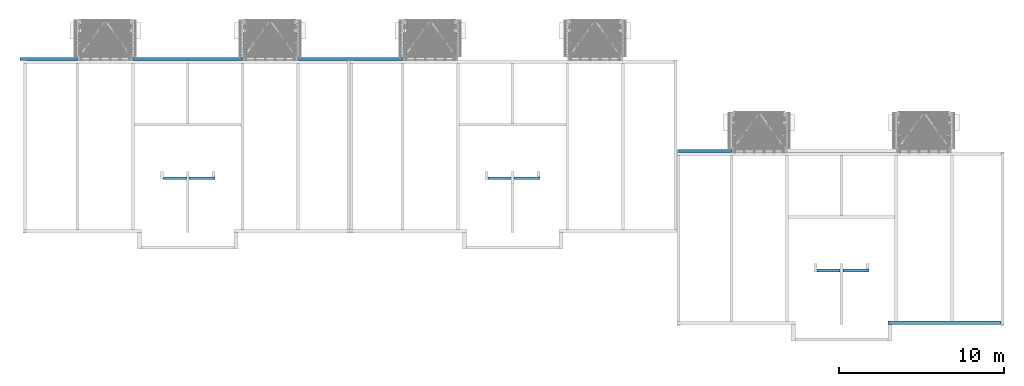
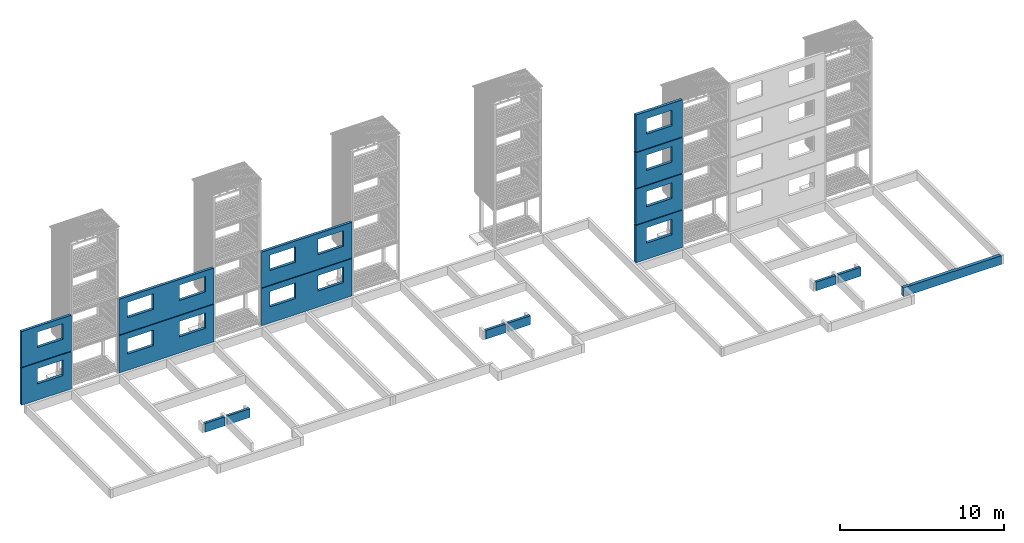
# One storey, part 181 of 182: 17 walls, 14 openings.
"""IFC2X3 building model written with IfcOpenShell, lengths in metres."""

from ifc_helpers import new_model, si_unit, frame, origin, place, context, project, spatial, faceted_brep, element, save


model = new_model("IFC2X3")

# Units and contexts
model_context = context("Model", 3, precision=1e-06, world=origin())
ifc_project = project(units=[si_unit("LENGTHUNIT", "METRE"), si_unit("PLANEANGLEUNIT", "RADIAN")], contexts=[model_context])

# Site, building, storey
site = spatial("IfcSite", under=ifc_project, CompositionType="ELEMENT")
building = spatial("IfcBuilding", under=site, CompositionType="ELEMENT")
storey = spatial("IfcBuildingStorey", under=building, Name="vs", CompositionType="ELEMENT", Elevation=-0.85)

# Wall, openings
placement = place(None, origin())
wall_1_placement = place(placement, frame((23.03540137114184, 10.657077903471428, -0.2), z_axis=(0.0, 0.0, 1.0), x_axis=(-1.0, 0.0, 0.0)))
wall_1 = element("IfcWall", 1, at=wall_1_placement, inside=storey, context=model_context, shape_type="Brep", body=[
    faceted_brep([(0.0, 0.0, 2.775), (0.0, 0.187, 2.775), (0.0, 0.187, 0.0), (0.0, 0.0, 0.0), (0.0, 0.187, 2.775), (6.370802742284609, 0.187, 2.775), (6.370802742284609, 0.187, 0.0), (0.0, 0.187, 0.0), (6.370802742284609, 0.187, 2.775), (6.370802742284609, 0.0, 2.775), (6.370802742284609, 0.0, 0.0), (6.370802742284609, 0.187, 0.0), (6.370802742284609, 0.0, 2.775), (0.0, 0.0, 2.775), (0.0, 0.0, 0.0), (6.370802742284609, 0.0, 0.0), (0.0, 0.0, 2.775), (6.370802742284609, 0.0, 2.775), (6.370802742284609, 0.187, 2.775), (0.0, 0.187, 2.775), (0.0, 0.0, 0.0), (0.0, 0.187, 0.0), (6.370802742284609, 0.187, 0.0), (6.370802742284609, 0.0, 0.0)], [[[0, 1, 2, 3]], [[4, 5, 6, 7]], [[8, 9, 10, 11]], [[12, 13, 14, 15]], [[16, 17, 18, 19]], [[20, 21, 22, 23]]]),
])
opening_1_placement = place(placement, frame((22.43540137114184, 10.657077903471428, 1.0), z_axis=(0.0, 0.0, 1.0), x_axis=(-1.0, 0.0, 0.0)))
element("IfcOpeningElement", 2, at=opening_1_placement, cuts=wall_1, Name="Opening", context=model_context, shape_type="Brep", body=[
    faceted_brep([(0.0, 0.187, 0.0), (1.8, 0.187, 0.0), (1.8, 0.0, 0.0), (0.0, 0.0, 0.0), (1.8, 0.0, 1.15), (1.8, 0.187, 1.15), (0.0, 0.187, 1.15), (0.0, 0.0, 1.15), (0.0, 0.187, 0.0), (0.0, 0.0, 0.0), (0.0, 0.0, 1.15), (0.0, 0.187, 1.15), (1.8, 0.187, 0.0), (0.0, 0.187, 0.0), (0.0, 0.187, 1.15), (1.8, 0.187, 1.15), (1.8, 0.0, 0.0), (1.8, 0.187, 0.0), (1.8, 0.187, 1.15), (1.8, 0.0, 1.15), (0.0, 0.0, 0.0), (1.8, 0.0, 0.0), (1.8, 0.0, 1.15), (0.0, 0.0, 1.15)], [[[0, 1, 2, 3]], [[4, 5, 6, 7]], [[8, 9, 10, 11]], [[12, 13, 14, 15]], [[16, 17, 18, 19]], [[20, 21, 22, 23]]]),
])
opening_2_placement = place(placement, frame((19.065401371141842, 10.65707790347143, 1.0), z_axis=(0.0, 0.0, 1.0), x_axis=(-1.0, 0.0, 0.0)))
element("IfcOpeningElement", 3, at=opening_2_placement, cuts=wall_1, Name="Opening", context=model_context, shape_type="Brep", body=[
    faceted_brep([(0.0, 0.186999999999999, 0.0), (1.8, 0.186999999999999, 0.0), (1.8, 0.0, 0.0), (0.0, 0.0, 0.0), (1.8, 0.0, 1.15), (1.8, 0.186999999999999, 1.15), (0.0, 0.186999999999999, 1.15), (0.0, 0.0, 1.15), (0.0, 0.186999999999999, 0.0), (0.0, 0.0, 0.0), (0.0, 0.0, 1.15), (0.0, 0.186999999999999, 1.15), (1.8, 0.186999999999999, 0.0), (0.0, 0.186999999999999, 0.0), (0.0, 0.186999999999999, 1.15), (1.8, 0.186999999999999, 1.15), (1.8, 0.0, 0.0), (1.8, 0.186999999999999, 0.0), (1.8, 0.186999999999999, 1.15), (1.8, 0.0, 1.15), (0.0, 0.0, 0.0), (1.8, 0.0, 0.0), (1.8, 0.0, 1.15), (0.0, 0.0, 1.15)], [[[0, 1, 2, 3]], [[4, 5, 6, 7]], [[8, 9, 10, 11]], [[12, 13, 14, 15]], [[16, 17, 18, 19]], [[20, 21, 22, 23]]]),
])

# Wall
wall_2_placement = place(placement, frame((11.64999945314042, 3.400077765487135, -0.85), z_axis=(0.0, 0.0, 1.0), x_axis=(-1.0, 0.0, 0.0)))
element("IfcWall", 4, at=wall_2_placement, inside=storey, context=model_context, shape_type="Brep", body=[
    faceted_brep([(1.574999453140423, 0.18, 0.65), (1.574999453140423, 0.0, 0.65), (1.574999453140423, 0.0, 0.0), (1.574999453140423, 0.18, 0.0), (1.574999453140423, 0.0, 0.65), (0.0, 0.0, 0.65), (0.0, 0.0, 0.0), (1.574999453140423, 0.0, 0.0), (0.0, 0.0, 0.65), (0.0, 0.18, 0.65), (0.0, 0.18, 0.0), (0.0, 0.0, 0.0), (0.0, 0.18, 0.65), (1.574999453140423, 0.18, 0.65), (1.574999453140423, 0.18, 0.0), (0.0, 0.18, 0.0), (1.574999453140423, 0.18, 0.65), (0.0, 0.18, 0.65), (0.0, 0.0, 0.65), (1.574999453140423, 0.0, 0.65), (1.574999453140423, 0.18, 0.0), (1.574999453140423, 0.0, 0.0), (0.0, 0.0, 0.0), (0.0, 0.18, 0.0)], [[[0, 1, 2, 3]], [[4, 5, 6, 7]], [[8, 9, 10, 11]], [[12, 13, 14, 15]], [[16, 17, 18, 19]], [[20, 21, 22, 23]]]),
])

# Wall, openings
wall_3_placement = place(placement, frame((23.03540137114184, 10.657077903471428, 2.625), z_axis=(0.0, 0.0, 1.0), x_axis=(-1.0, 0.0, 0.0)))
wall_3 = element("IfcWall", 5, at=wall_3_placement, inside=storey, context=model_context, shape_type="Brep", body=[
    faceted_brep([(0.0, 0.0, 2.65), (0.0, 0.187, 2.65), (0.0, 0.187, 0.0), (0.0, 0.0, 0.0), (0.0, 0.187, 2.65), (6.370802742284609, 0.187, 2.65), (6.370802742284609, 0.187, 0.0), (0.0, 0.187, 0.0), (6.370802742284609, 0.187, 2.65), (6.370802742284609, 0.0, 2.65), (6.370802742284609, 0.0, 0.0), (6.370802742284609, 0.187, 0.0), (6.370802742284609, 0.0, 2.65), (0.0, 0.0, 2.65), (0.0, 0.0, 0.0), (6.370802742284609, 0.0, 0.0), (0.0, 0.0, 2.65), (6.370802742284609, 0.0, 2.65), (6.370802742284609, 0.187, 2.65), (0.0, 0.187, 2.65), (0.0, 0.0, 0.0), (0.0, 0.187, 0.0), (6.370802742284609, 0.187, 0.0), (6.370802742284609, 0.0, 0.0)], [[[0, 1, 2, 3]], [[4, 5, 6, 7]], [[8, 9, 10, 11]], [[12, 13, 14, 15]], [[16, 17, 18, 19]], [[20, 21, 22, 23]]]),
])
opening_3_placement = place(placement, frame((19.065401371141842, 10.657077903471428, 3.7), z_axis=(0.0, 0.0, 1.0), x_axis=(-1.0, 0.0, 0.0)))
element("IfcOpeningElement", 6, at=opening_3_placement, cuts=wall_3, Name="Opening", context=model_context, shape_type="Brep", body=[
    faceted_brep([(0.0, 0.186999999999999, 0.0), (1.8, 0.186999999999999, 0.0), (1.8, 0.0, 0.0), (0.0, 0.0, 0.0), (1.8, 0.0, 1.15), (1.8, 0.186999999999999, 1.15), (0.0, 0.186999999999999, 1.15), (0.0, 0.0, 1.15), (0.0, 0.186999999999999, 0.0), (0.0, 0.0, 0.0), (0.0, 0.0, 1.15), (0.0, 0.186999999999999, 1.15), (1.8, 0.186999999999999, 0.0), (0.0, 0.186999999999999, 0.0), (0.0, 0.186999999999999, 1.15), (1.8, 0.186999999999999, 1.15), (1.8, 0.0, 0.0), (1.8, 0.186999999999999, 0.0), (1.8, 0.186999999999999, 1.15), (1.8, 0.0, 1.15), (0.0, 0.0, 0.0), (1.8, 0.0, 0.0), (1.8, 0.0, 1.15), (0.0, 0.0, 1.15)], [[[0, 1, 2, 3]], [[4, 5, 6, 7]], [[8, 9, 10, 11]], [[12, 13, 14, 15]], [[16, 17, 18, 19]], [[20, 21, 22, 23]]]),
])
opening_4_placement = place(placement, frame((22.43540137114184, 10.657077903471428, 3.7), z_axis=(0.0, 0.0, 1.0), x_axis=(-1.0, 0.0, 0.0)))
element("IfcOpeningElement", 7, at=opening_4_placement, cuts=wall_3, Name="Opening", context=model_context, shape_type="Brep", body=[
    faceted_brep([(0.0, 0.187, 0.0), (1.8, 0.187, 0.0), (1.8, 0.0, 0.0), (0.0, 0.0, 0.0), (1.8, 0.0, 1.15), (1.8, 0.187, 1.15), (0.0, 0.187, 1.15), (0.0, 0.0, 1.15), (0.0, 0.187, 0.0), (0.0, 0.0, 0.0), (0.0, 0.0, 1.15), (0.0, 0.187, 1.15), (1.8, 0.187, 0.0), (0.0, 0.187, 0.0), (0.0, 0.187, 1.15), (1.8, 0.187, 1.15), (1.8, 0.0, 0.0), (1.8, 0.187, 0.0), (1.8, 0.187, 1.15), (1.8, 0.0, 1.15), (0.0, 0.0, 0.0), (1.8, 0.0, 0.0), (1.8, 0.0, 1.15), (0.0, 0.0, 1.15)], [[[0, 1, 2, 3]], [[4, 5, 6, 7]], [[8, 9, 10, 11]], [[12, 13, 14, 15]], [[16, 17, 18, 19]], [[20, 21, 22, 23]]]),
])

# Wall
wall_4_placement = place(placement, frame((31.37999951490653, 3.400077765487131, -0.85), z_axis=(0.0, 0.0, 1.0), x_axis=(-1.0, 0.0, 0.0)))
element("IfcWall", 8, at=wall_4_placement, inside=storey, context=model_context, shape_type="Brep", body=[
    faceted_brep([(1.574999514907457, 0.18, 0.65), (1.574999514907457, 0.0, 0.65), (1.574999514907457, 0.0, 0.0), (1.574999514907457, 0.18, 0.0), (1.574999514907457, 0.0, 0.65), (0.0, 0.0, 0.65), (0.0, 0.0, 0.0), (1.574999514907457, 0.0, 0.0), (0.0, 0.0, 0.65), (0.0, 0.18, 0.65), (0.0, 0.18, 0.0), (0.0, 0.0, 0.0), (0.0, 0.18, 0.65), (1.574999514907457, 0.18, 0.65), (1.574999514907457, 0.18, 0.0), (0.0, 0.18, 0.0), (1.574999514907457, 0.18, 0.65), (0.0, 0.18, 0.65), (0.0, 0.0, 0.65), (1.574999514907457, 0.0, 0.65), (1.574999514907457, 0.18, 0.0), (1.574999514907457, 0.0, 0.0), (0.0, 0.0, 0.0), (0.0, 0.18, 0.0)], [[[0, 1, 2, 3]], [[4, 5, 6, 7]], [[8, 9, 10, 11]], [[12, 13, 14, 15]], [[16, 17, 18, 19]], [[20, 21, 22, 23]]]),
])

# Wall, openings
wall_5_placement = place(placement, frame((13.314598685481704, 10.657077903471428, 2.625), z_axis=(0.0, 0.0, 1.0), x_axis=(-1.0, 0.0, 0.0)))
wall_5 = element("IfcWall", 9, at=wall_5_placement, inside=storey, context=model_context, shape_type="Brep", body=[
    faceted_brep([(0.0, 0.0, 2.65), (0.0, 0.187, 2.65), (0.0, 0.187, 0.0), (0.0, 0.0, 0.0), (0.0, 0.187, 2.65), (6.659598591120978, 0.187, 2.65), (6.659598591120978, 0.187, 0.0), (0.0, 0.187, 0.0), (6.659598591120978, 0.187, 2.65), (6.659598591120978, 0.0, 2.65), (6.659598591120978, 0.0, 0.0), (6.659598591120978, 0.187, 0.0), (6.659598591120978, 0.0, 2.65), (0.0, 0.0, 2.65), (0.0, 0.0, 0.0), (6.659598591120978, 0.0, 0.0), (0.0, 0.0, 2.65), (6.659598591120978, 0.0, 2.65), (6.659598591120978, 0.187, 2.65), (0.0, 0.187, 2.65), (0.0, 0.0, 0.0), (0.0, 0.187, 0.0), (6.659598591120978, 0.187, 0.0), (6.659598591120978, 0.0, 0.0)], [[[0, 1, 2, 3]], [[4, 5, 6, 7]], [[8, 9, 10, 11]], [[12, 13, 14, 15]], [[16, 17, 18, 19]], [[20, 21, 22, 23]]]),
])
opening_5_placement = place(placement, frame((12.714598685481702, 10.657077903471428, 3.7), z_axis=(0.0, 0.0, 1.0), x_axis=(-1.0, 0.0, 0.0)))
element("IfcOpeningElement", 10, at=opening_5_placement, cuts=wall_5, Name="Opening", context=model_context, shape_type="Brep", body=[
    faceted_brep([(0.0, 0.187, 0.0), (1.8, 0.187, 0.0), (1.8, 0.0, 0.0), (0.0, 0.0, 0.0), (1.8, 0.0, 1.15), (1.8, 0.187, 1.15), (0.0, 0.187, 1.15), (0.0, 0.0, 1.15), (0.0, 0.187, 0.0), (0.0, 0.0, 0.0), (0.0, 0.0, 1.15), (0.0, 0.187, 1.15), (1.8, 0.187, 0.0), (0.0, 0.187, 0.0), (0.0, 0.187, 1.15), (1.8, 0.187, 1.15), (1.8, 0.0, 0.0), (1.8, 0.187, 0.0), (1.8, 0.187, 1.15), (1.8, 0.0, 1.15), (0.0, 0.0, 0.0), (1.8, 0.0, 0.0), (1.8, 0.0, 1.15), (0.0, 0.0, 1.15)], [[[0, 1, 2, 3]], [[4, 5, 6, 7]], [[8, 9, 10, 11]], [[12, 13, 14, 15]], [[16, 17, 18, 19]], [[20, 21, 22, 23]]]),
])
opening_6_placement = place(placement, frame((9.054598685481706, 10.657077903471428, 3.7), z_axis=(0.0, 0.0, 1.0), x_axis=(-1.0, 0.0, 0.0)))
element("IfcOpeningElement", 11, at=opening_6_placement, cuts=wall_5, Name="Opening", context=model_context, shape_type="Brep", body=[
    faceted_brep([(0.0, 0.186999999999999, 0.0), (1.8, 0.186999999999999, 0.0), (1.8, 0.0, 0.0), (0.0, 0.0, 0.0), (1.8, 0.0, 1.15), (1.8, 0.186999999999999, 1.15), (0.0, 0.186999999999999, 1.15), (0.0, 0.0, 1.15), (0.0, 0.186999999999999, 0.0), (0.0, 0.0, 0.0), (0.0, 0.0, 1.15), (0.0, 0.186999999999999, 1.15), (1.8, 0.186999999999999, 0.0), (0.0, 0.186999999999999, 0.0), (0.0, 0.186999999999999, 1.15), (1.8, 0.186999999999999, 1.15), (1.8, 0.0, 0.0), (1.8, 0.186999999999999, 0.0), (1.8, 0.186999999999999, 1.15), (1.8, 0.0, 1.15), (0.0, 0.0, 0.0), (1.8, 0.0, 0.0), (1.8, 0.0, 1.15), (0.0, 0.0, 1.15)], [[[0, 1, 2, 3]], [[4, 5, 6, 7]], [[8, 9, 10, 11]], [[12, 13, 14, 15]], [[16, 17, 18, 19]], [[20, 21, 22, 23]]]),
])

# Wall, opening
wall_6_placement = place(placement, frame((3.305000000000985, 10.657078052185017, 2.625), z_axis=(0.0, 0.0, 1.0), x_axis=(-1.0, 0.0, 0.0)))
wall_6 = element("IfcWall", 12, at=wall_6_placement, inside=storey, context=model_context, shape_type="Brep", body=[
    faceted_brep([(0.0, 0.0, 2.65), (0.0, 0.187, 2.65), (0.0, 0.187, 0.0), (0.0, 0.0, 0.0), (0.0, 0.187, 2.65), (3.505000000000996, 0.187, 2.65), (3.505000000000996, 0.187, 0.0), (0.0, 0.187, 0.0), (3.505000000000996, 0.187, 2.65), (3.505000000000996, 0.0, 2.65), (3.505000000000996, 0.0, 0.0), (3.505000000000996, 0.187, 0.0), (3.505000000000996, 0.0, 2.65), (0.0, 0.0, 2.65), (0.0, 0.0, 0.0), (3.505000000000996, 0.0, 0.0), (0.0, 0.0, 2.65), (3.505000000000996, 0.0, 2.65), (3.505000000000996, 0.187, 2.65), (0.0, 0.187, 2.65), (0.0, 0.0, 0.0), (0.0, 0.187, 0.0), (3.505000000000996, 0.187, 0.0), (3.505000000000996, 0.0, 0.0)], [[[0, 1, 2, 3]], [[4, 5, 6, 7]], [[8, 9, 10, 11]], [[12, 13, 14, 15]], [[16, 17, 18, 19]], [[20, 21, 22, 23]]]),
])
opening_7_placement = place(placement, frame((2.705000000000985, 10.657078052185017, 3.7), z_axis=(0.0, 0.0, 1.0), x_axis=(-1.0, 0.0, 0.0)))
element("IfcOpeningElement", 13, at=opening_7_placement, cuts=wall_6, Name="Opening", context=model_context, shape_type="Brep", body=[
    faceted_brep([(0.0, 0.187, 0.0), (1.8, 0.187, 0.0), (1.8, 0.0, 0.0), (0.0, 0.0, 0.0), (1.8, 0.0, 1.15), (1.8, 0.187, 1.15), (0.0, 0.187, 1.15), (0.0, 0.0, 1.15), (0.0, 0.187, 0.0), (0.0, 0.0, 0.0), (0.0, 0.0, 1.15), (0.0, 0.187, 1.15), (1.8, 0.187, 0.0), (0.0, 0.187, 0.0), (0.0, 0.187, 1.15), (1.8, 0.187, 1.15), (1.8, 0.0, 0.0), (1.8, 0.187, 0.0), (1.8, 0.187, 1.15), (1.8, 0.0, 1.15), (0.0, 0.0, 0.0), (1.8, 0.0, 0.0), (1.8, 0.0, 1.15), (0.0, 0.0, 1.15)], [[[0, 1, 2, 3]], [[4, 5, 6, 7]], [[8, 9, 10, 11]], [[12, 13, 14, 15]], [[16, 17, 18, 19]], [[20, 21, 22, 23]]]),
])

# Wall, openings
wall_7_placement = place(placement, frame((13.314598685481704, 10.657077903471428, -0.2), z_axis=(0.0, 0.0, 1.0), x_axis=(-1.0, 0.0, 0.0)))
wall_7 = element("IfcWall", 14, at=wall_7_placement, inside=storey, context=model_context, shape_type="Brep", body=[
    faceted_brep([(0.0, 0.0, 2.775), (0.0, 0.187, 2.775), (0.0, 0.187, 0.0), (0.0, 0.0, 0.0), (0.0, 0.187, 2.775), (6.659598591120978, 0.187, 2.775), (6.659598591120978, 0.187, 0.0), (0.0, 0.187, 0.0), (6.659598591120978, 0.187, 2.775), (6.659598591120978, 0.0, 2.775), (6.659598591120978, 0.0, 0.0), (6.659598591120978, 0.187, 0.0), (6.659598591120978, 0.0, 2.775), (0.0, 0.0, 2.775), (0.0, 0.0, 0.0), (6.659598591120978, 0.0, 0.0), (0.0, 0.0, 2.775), (6.659598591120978, 0.0, 2.775), (6.659598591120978, 0.187, 2.775), (0.0, 0.187, 2.775), (0.0, 0.0, 0.0), (0.0, 0.187, 0.0), (6.659598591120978, 0.187, 0.0), (6.659598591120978, 0.0, 0.0)], [[[0, 1, 2, 3]], [[4, 5, 6, 7]], [[8, 9, 10, 11]], [[12, 13, 14, 15]], [[16, 17, 18, 19]], [[20, 21, 22, 23]]]),
])
opening_8_placement = place(placement, frame((9.054598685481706, 10.657077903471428, 1.0), z_axis=(0.0, 0.0, 1.0), x_axis=(-1.0, 0.0, 0.0)))
element("IfcOpeningElement", 15, at=opening_8_placement, cuts=wall_7, Name="Opening", context=model_context, shape_type="Brep", body=[
    faceted_brep([(0.0, 0.186999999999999, 0.0), (1.8, 0.186999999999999, 0.0), (1.8, 0.0, 0.0), (0.0, 0.0, 0.0), (1.8, 0.0, 1.15), (1.8, 0.186999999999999, 1.15), (0.0, 0.186999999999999, 1.15), (0.0, 0.0, 1.15), (0.0, 0.186999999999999, 0.0), (0.0, 0.0, 0.0), (0.0, 0.0, 1.15), (0.0, 0.186999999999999, 1.15), (1.8, 0.186999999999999, 0.0), (0.0, 0.186999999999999, 0.0), (0.0, 0.186999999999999, 1.15), (1.8, 0.186999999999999, 1.15), (1.8, 0.0, 0.0), (1.8, 0.186999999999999, 0.0), (1.8, 0.186999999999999, 1.15), (1.8, 0.0, 1.15), (0.0, 0.0, 0.0), (1.8, 0.0, 0.0), (1.8, 0.0, 1.15), (0.0, 0.0, 1.15)], [[[0, 1, 2, 3]], [[4, 5, 6, 7]], [[8, 9, 10, 11]], [[12, 13, 14, 15]], [[16, 17, 18, 19]], [[20, 21, 22, 23]]]),
])
opening_9_placement = place(placement, frame((12.714598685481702, 10.657077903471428, 1.0), z_axis=(0.0, 0.0, 1.0), x_axis=(-1.0, 0.0, 0.0)))
element("IfcOpeningElement", 16, at=opening_9_placement, cuts=wall_7, Name="Opening", context=model_context, shape_type="Brep", body=[
    faceted_brep([(0.0, 0.187, 0.0), (1.8, 0.187, 0.0), (1.8, 0.0, 0.0), (0.0, 0.0, 0.0), (1.8, 0.0, 1.15), (1.8, 0.187, 1.15), (0.0, 0.187, 1.15), (0.0, 0.0, 1.15), (0.0, 0.187, 0.0), (0.0, 0.0, 0.0), (0.0, 0.0, 1.15), (0.0, 0.187, 1.15), (1.8, 0.187, 0.0), (0.0, 0.187, 0.0), (0.0, 0.187, 1.15), (1.8, 0.187, 1.15), (1.8, 0.0, 0.0), (1.8, 0.187, 0.0), (1.8, 0.187, 1.15), (1.8, 0.0, 1.15), (0.0, 0.0, 0.0), (1.8, 0.0, 0.0), (1.8, 0.0, 1.15), (0.0, 0.0, 1.15)], [[[0, 1, 2, 3]], [[4, 5, 6, 7]], [[8, 9, 10, 11]], [[12, 13, 14, 15]], [[16, 17, 18, 19]], [[20, 21, 22, 23]]]),
])

# Wall, opening
wall_8_placement = place(placement, frame((3.305000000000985, 10.657078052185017, -0.2), z_axis=(0.0, 0.0, 1.0), x_axis=(-1.0, 0.0, 0.0)))
wall_8 = element("IfcWall", 17, at=wall_8_placement, inside=storey, context=model_context, shape_type="Brep", body=[
    faceted_brep([(0.0, 0.0, 2.775), (0.0, 0.187, 2.775), (0.0, 0.187, 0.0), (0.0, 0.0, 0.0), (0.0, 0.187, 2.775), (3.505000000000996, 0.187, 2.775), (3.505000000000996, 0.187, 0.0), (0.0, 0.187, 0.0), (3.505000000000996, 0.187, 2.775), (3.505000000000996, 0.0, 2.775), (3.505000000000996, 0.0, 0.0), (3.505000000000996, 0.187, 0.0), (3.505000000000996, 0.0, 2.775), (0.0, 0.0, 2.775), (0.0, 0.0, 0.0), (3.505000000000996, 0.0, 0.0), (0.0, 0.0, 2.775), (3.505000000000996, 0.0, 2.775), (3.505000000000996, 0.187, 2.775), (0.0, 0.187, 2.775), (0.0, 0.0, 0.0), (0.0, 0.187, 0.0), (3.505000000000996, 0.187, 0.0), (3.505000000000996, 0.0, 0.0)], [[[0, 1, 2, 3]], [[4, 5, 6, 7]], [[8, 9, 10, 11]], [[12, 13, 14, 15]], [[16, 17, 18, 19]], [[20, 21, 22, 23]]]),
])
opening_10_placement = place(placement, frame((2.705000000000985, 10.657078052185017, 1.0), z_axis=(0.0, 0.0, 1.0), x_axis=(-1.0, 0.0, 0.0)))
element("IfcOpeningElement", 18, at=opening_10_placement, cuts=wall_8, Name="Opening", context=model_context, shape_type="Brep", body=[
    faceted_brep([(0.0, 0.187, 0.0), (1.8, 0.187, 0.0), (1.8, 0.0, 0.0), (0.0, 0.0, 0.0), (1.8, 0.0, 1.15), (1.8, 0.187, 1.15), (0.0, 0.187, 1.15), (0.0, 0.0, 1.15), (0.0, 0.187, 0.0), (0.0, 0.0, 0.0), (0.0, 0.0, 1.15), (0.0, 0.187, 1.15), (1.8, 0.187, 0.0), (0.0, 0.187, 0.0), (0.0, 0.187, 1.15), (1.8, 0.187, 1.15), (1.8, 0.0, 0.0), (1.8, 0.187, 0.0), (1.8, 0.187, 1.15), (1.8, 0.0, 1.15), (0.0, 0.0, 0.0), (1.8, 0.0, 0.0), (1.8, 0.0, 1.15), (0.0, 0.0, 1.15)], [[[0, 1, 2, 3]], [[4, 5, 6, 7]], [[8, 9, 10, 11]], [[12, 13, 14, 15]], [[16, 17, 18, 19]], [[20, 21, 22, 23]]]),
])

# Walls
wall_9_placement = place(placement, frame((52.49499999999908, -5.579837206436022, -0.85), z_axis=(0.0, 0.0, 1.0), x_axis=(1.0, 0.0, 0.0)))
element("IfcWall", 19, at=wall_9_placement, inside=storey, context=model_context, shape_type="Brep", body=[
    faceted_brep([(6.874999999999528, 0.0, 0.65), (0.0, 0.0, 0.65), (0.0, 0.0, 0.0), (6.874999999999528, 0.0, 0.0), (0.0, 0.0, 0.65), (0.0, 0.23, 0.65), (0.0, 0.23, 0.0), (0.0, 0.0, 0.0), (0.0, 0.23, 0.65), (0.414999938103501, 0.23, 0.65), (0.414999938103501, 0.23, 0.0), (0.0, 0.23, 0.0), (0.414999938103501, 0.23, 0.65), (0.414999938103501, 0.18, 0.65), (0.414999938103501, 0.18, 0.0), (0.414999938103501, 0.23, 0.0), (0.414999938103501, 0.18, 0.65), (0.594999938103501, 0.18, 0.65), (0.594999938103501, 0.18, 0.0), (0.414999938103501, 0.18, 0.0), (0.594999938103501, 0.18, 0.65), (0.594999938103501, 0.23, 0.65), (0.594999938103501, 0.23, 0.0), (0.594999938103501, 0.18, 0.0), (0.594999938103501, 0.23, 0.65), (3.795000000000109, 0.23, 0.65), (3.795000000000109, 0.23, 0.0), (0.594999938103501, 0.23, 0.0), (3.795000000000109, 0.23, 0.65), (3.795000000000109, 0.18, 0.65), (3.795000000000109, 0.18, 0.0), (3.795000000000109, 0.23, 0.0), (3.795000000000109, 0.18, 0.65), (3.975000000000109, 0.18, 0.65), (3.975000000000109, 0.18, 0.0), (3.795000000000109, 0.18, 0.0), (3.975000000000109, 0.18, 0.65), (3.975000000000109, 0.23, 0.65), (3.975000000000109, 0.23, 0.0), (3.975000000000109, 0.18, 0.0), (3.975000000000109, 0.23, 0.65), (6.874999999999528, 0.23, 0.65), (6.874999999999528, 0.23, 0.0), (3.975000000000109, 0.23, 0.0), (6.874999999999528, 0.23, 0.65), (6.874999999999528, 0.0, 0.65), (6.874999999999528, 0.0, 0.0), (6.874999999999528, 0.23, 0.0), (6.874999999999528, 0.0, 0.65), (6.874999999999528, 0.23, 0.65), (3.975000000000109, 0.23, 0.65), (3.975000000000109, 0.18, 0.65), (3.795000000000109, 0.18, 0.65), (3.795000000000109, 0.23, 0.65), (0.594999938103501, 0.23, 0.65), (0.594999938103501, 0.18, 0.65), (0.414999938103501, 0.18, 0.65), (0.414999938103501, 0.23, 0.65), (0.0, 0.23, 0.65), (0.0, 0.0, 0.65), (6.874999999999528, 0.0, 0.0), (0.0, 0.0, 0.0), (0.0, 0.23, 0.0), (0.414999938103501, 0.23, 0.0), (0.414999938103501, 0.18, 0.0), (0.594999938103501, 0.18, 0.0), (0.594999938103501, 0.23, 0.0), (3.795000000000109, 0.23, 0.0), (3.795000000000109, 0.18, 0.0), (3.975000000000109, 0.18, 0.0), (3.975000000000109, 0.23, 0.0), (6.874999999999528, 0.23, 0.0)], [[[0, 1, 2, 3]], [[4, 5, 6, 7]], [[8, 9, 10, 11]], [[12, 13, 14, 15]], [[16, 17, 18, 19]], [[20, 21, 22, 23]], [[24, 25, 26, 27]], [[28, 29, 30, 31]], [[32, 33, 34, 35]], [[36, 37, 38, 39]], [[40, 41, 42, 43]], [[44, 45, 46, 47]], [[48, 49, 50, 51, 52, 53, 54, 55, 56, 57, 58, 59]], [[60, 61, 62, 63, 64, 65, 66, 67, 68, 69, 70, 71]]]),
])
wall_10_placement = place(placement, frame((11.64999945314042, 3.400077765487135, -0.85), z_axis=(0.0, 0.0, 1.0), x_axis=(-1.0, 0.0, 0.0)))
element("IfcWall", 20, at=wall_10_placement, inside=storey, context=model_context, shape_type="Brep", body=[
    faceted_brep([(3.150000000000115, 0.18, 0.65), (3.150000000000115, 0.0, 0.65), (3.150000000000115, 0.0, 0.0), (3.150000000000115, 0.18, 0.0), (3.150000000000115, 0.0, 0.65), (1.754999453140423, 0.0, 0.65), (1.754999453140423, 0.0, 0.0), (3.150000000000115, 0.0, 0.0), (1.754999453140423, 0.0, 0.65), (1.754999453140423, 0.18, 0.65), (1.754999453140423, 0.18, 0.0), (1.754999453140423, 0.0, 0.0), (1.754999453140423, 0.18, 0.65), (3.150000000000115, 0.18, 0.65), (3.150000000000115, 0.18, 0.0), (1.754999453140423, 0.18, 0.0), (3.150000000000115, 0.18, 0.65), (1.754999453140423, 0.18, 0.65), (1.754999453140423, 0.0, 0.65), (3.150000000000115, 0.0, 0.65), (3.150000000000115, 0.18, 0.0), (3.150000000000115, 0.0, 0.0), (1.754999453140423, 0.0, 0.0), (1.754999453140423, 0.18, 0.0)], [[[0, 1, 2, 3]], [[4, 5, 6, 7]], [[8, 9, 10, 11]], [[12, 13, 14, 15]], [[16, 17, 18, 19]], [[20, 21, 22, 23]]]),
])
wall_11_placement = place(placement, frame((51.3499994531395, -2.199922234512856, -0.85), z_axis=(0.0, 0.0, 1.0), x_axis=(-1.0, 0.0, 0.0)))
element("IfcWall", 21, at=wall_11_placement, inside=storey, context=model_context, shape_type="Brep", body=[
    faceted_brep([(1.574999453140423, 0.18, 0.65), (1.574999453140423, 0.0, 0.65), (1.574999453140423, 0.0, 0.0), (1.574999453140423, 0.18, 0.0), (1.574999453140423, 0.0, 0.65), (0.0, 0.0, 0.65), (0.0, 0.0, 0.0), (1.574999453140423, 0.0, 0.0), (0.0, 0.0, 0.65), (0.0, 0.18, 0.65), (0.0, 0.18, 0.0), (0.0, 0.0, 0.0), (0.0, 0.18, 0.65), (1.574999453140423, 0.18, 0.65), (1.574999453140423, 0.18, 0.0), (0.0, 0.18, 0.0), (1.574999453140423, 0.18, 0.65), (0.0, 0.18, 0.65), (0.0, 0.0, 0.65), (1.574999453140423, 0.0, 0.65), (1.574999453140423, 0.18, 0.0), (1.574999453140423, 0.0, 0.0), (0.0, 0.0, 0.0), (0.0, 0.18, 0.0)], [[[0, 1, 2, 3]], [[4, 5, 6, 7]], [[8, 9, 10, 11]], [[12, 13, 14, 15]], [[16, 17, 18, 19]], [[20, 21, 22, 23]]]),
])

# Wall, opening
wall_12_placement = place(placement, frame((43.00500000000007, 5.070077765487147, 2.625), z_axis=(0.0, 0.0, 1.0), x_axis=(-1.0, 0.0, 0.0)))
wall_12 = element("IfcWall", 22, at=wall_12_placement, inside=storey, context=model_context, shape_type="Brep", body=[
    faceted_brep([(0.0, 0.0, 2.650000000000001), (0.0, 0.2, 2.650000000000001), (0.0, 0.2, 0.0), (0.0, 0.0, 0.0), (0.0, 0.2, 2.650000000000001), (3.280000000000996, 0.2, 2.650000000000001), (3.280000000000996, 0.2, 0.0), (0.0, 0.2, 0.0), (3.280000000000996, 0.2, 2.650000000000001), (3.280000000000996, 0.0, 2.650000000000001), (3.280000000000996, 0.0, 0.0), (3.280000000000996, 0.2, 0.0), (3.280000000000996, 0.0, 2.650000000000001), (0.0, 0.0, 2.650000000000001), (0.0, 0.0, 0.0), (3.280000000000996, 0.0, 0.0), (0.0, 0.0, 2.650000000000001), (3.280000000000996, 0.0, 2.650000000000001), (3.280000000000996, 0.2, 2.650000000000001), (0.0, 0.2, 2.650000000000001), (0.0, 0.0, 0.0), (0.0, 0.2, 0.0), (3.280000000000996, 0.2, 0.0), (3.280000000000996, 0.0, 0.0)], [[[0, 1, 2, 3]], [[4, 5, 6, 7]], [[8, 9, 10, 11]], [[12, 13, 14, 15]], [[16, 17, 18, 19]], [[20, 21, 22, 23]]]),
])
opening_11_placement = place(placement, frame((42.28500000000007, 5.070077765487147, 3.699999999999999), z_axis=(0.0, 0.0, 1.0), x_axis=(-1.0, 0.0, 0.0)))
element("IfcOpeningElement", 23, at=opening_11_placement, cuts=wall_12, Name="Opening", context=model_context, shape_type="Brep", body=[
    faceted_brep([(0.0, 0.2, 0.0), (1.8, 0.2, 0.0), (1.8, 0.0, 0.0), (0.0, 0.0, 0.0), (1.8, 0.0, 1.15), (1.8, 0.2, 1.15), (0.0, 0.2, 1.15), (0.0, 0.0, 1.15), (0.0, 0.2, 0.0), (0.0, 0.0, 0.0), (0.0, 0.0, 1.15), (0.0, 0.2, 1.15), (1.8, 0.2, 0.0), (0.0, 0.2, 0.0), (0.0, 0.2, 1.15), (1.8, 0.2, 1.15), (1.8, 0.0, 0.0), (1.8, 0.2, 0.0), (1.8, 0.2, 1.15), (1.8, 0.0, 1.15), (0.0, 0.0, 0.0), (1.8, 0.0, 0.0), (1.8, 0.0, 1.15), (0.0, 0.0, 1.15)], [[[0, 1, 2, 3]], [[4, 5, 6, 7]], [[8, 9, 10, 11]], [[12, 13, 14, 15]], [[16, 17, 18, 19]], [[20, 21, 22, 23]]]),
])

wall_13_placement = place(placement, frame((43.00500000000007, 5.070077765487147, 5.324999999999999), z_axis=(0.0, 0.0, 1.0), x_axis=(-1.0, 0.0, 0.0)))
wall_13 = element("IfcWall", 24, at=wall_13_placement, inside=storey, context=model_context, shape_type="Brep", body=[
    faceted_brep([(0.0, 0.0, 2.650000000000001), (0.0, 0.2, 2.650000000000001), (0.0, 0.2, 0.0), (0.0, 0.0, 0.0), (0.0, 0.2, 2.650000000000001), (3.280000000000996, 0.2, 2.650000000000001), (3.280000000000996, 0.2, 0.0), (0.0, 0.2, 0.0), (3.280000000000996, 0.2, 2.650000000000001), (3.280000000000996, 0.0, 2.650000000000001), (3.280000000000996, 0.0, 0.0), (3.280000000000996, 0.2, 0.0), (3.280000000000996, 0.0, 2.650000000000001), (0.0, 0.0, 2.650000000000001), (0.0, 0.0, 0.0), (3.280000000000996, 0.0, 0.0), (0.0, 0.0, 2.650000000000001), (3.280000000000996, 0.0, 2.650000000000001), (3.280000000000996, 0.2, 2.650000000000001), (0.0, 0.2, 2.650000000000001), (0.0, 0.0, 0.0), (0.0, 0.2, 0.0), (3.280000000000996, 0.2, 0.0), (3.280000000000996, 0.0, 0.0)], [[[0, 1, 2, 3]], [[4, 5, 6, 7]], [[8, 9, 10, 11]], [[12, 13, 14, 15]], [[16, 17, 18, 19]], [[20, 21, 22, 23]]]),
])
opening_12_placement = place(placement, frame((42.28500000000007, 5.070077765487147, 6.399999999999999), z_axis=(0.0, 0.0, 1.0), x_axis=(-1.0, 0.0, 0.0)))
element("IfcOpeningElement", 25, at=opening_12_placement, cuts=wall_13, Name="Opening", context=model_context, shape_type="Brep", body=[
    faceted_brep([(0.0, 0.2, 0.0), (1.8, 0.2, 0.0), (1.8, 0.0, 0.0), (0.0, 0.0, 0.0), (1.8, 0.0, 1.15), (1.8, 0.2, 1.15), (0.0, 0.2, 1.15), (0.0, 0.0, 1.15), (0.0, 0.2, 0.0), (0.0, 0.0, 0.0), (0.0, 0.0, 1.15), (0.0, 0.2, 1.15), (1.8, 0.2, 0.0), (0.0, 0.2, 0.0), (0.0, 0.2, 1.15), (1.8, 0.2, 1.15), (1.8, 0.0, 0.0), (1.8, 0.2, 0.0), (1.8, 0.2, 1.15), (1.8, 0.0, 1.15), (0.0, 0.0, 0.0), (1.8, 0.0, 0.0), (1.8, 0.0, 1.15), (0.0, 0.0, 1.15)], [[[0, 1, 2, 3]], [[4, 5, 6, 7]], [[8, 9, 10, 11]], [[12, 13, 14, 15]], [[16, 17, 18, 19]], [[20, 21, 22, 23]]]),
])

wall_14_placement = place(placement, frame((43.00500000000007, 5.070077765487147, 8.024999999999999), z_axis=(0.0, 0.0, 1.0), x_axis=(-1.0, 0.0, 0.0)))
wall_14 = element("IfcWall", 26, at=wall_14_placement, inside=storey, context=model_context, shape_type="Brep", body=[
    faceted_brep([(0.0, 0.0, 2.75), (0.0, 0.2, 2.75), (0.0, 0.2, 0.0), (0.0, 0.0, 0.0), (0.0, 0.2, 2.75), (3.280000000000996, 0.2, 2.75), (3.280000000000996, 0.2, 0.0), (0.0, 0.2, 0.0), (3.280000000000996, 0.2, 2.75), (3.280000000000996, 0.0, 2.75), (3.280000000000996, 0.0, 0.0), (3.280000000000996, 0.2, 0.0), (3.280000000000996, 0.0, 2.75), (0.0, 0.0, 2.75), (0.0, 0.0, 0.0), (3.280000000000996, 0.0, 0.0), (0.0, 0.0, 2.75), (3.280000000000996, 0.0, 2.75), (3.280000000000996, 0.2, 2.75), (0.0, 0.2, 2.75), (0.0, 0.0, 0.0), (0.0, 0.2, 0.0), (3.280000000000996, 0.2, 0.0), (3.280000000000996, 0.0, 0.0)], [[[0, 1, 2, 3]], [[4, 5, 6, 7]], [[8, 9, 10, 11]], [[12, 13, 14, 15]], [[16, 17, 18, 19]], [[20, 21, 22, 23]]]),
])
opening_13_placement = place(placement, frame((42.28500000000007, 5.070077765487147, 9.099999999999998), z_axis=(0.0, 0.0, 1.0), x_axis=(-1.0, 0.0, 0.0)))
element("IfcOpeningElement", 27, at=opening_13_placement, cuts=wall_14, Name="Opening", context=model_context, shape_type="Brep", body=[
    faceted_brep([(0.0, 0.2, 0.0), (1.8, 0.2, 0.0), (1.8, 0.0, 0.0), (0.0, 0.0, 0.0), (1.8, 0.0, 1.15), (1.8, 0.2, 1.15), (0.0, 0.2, 1.15), (0.0, 0.0, 1.15), (0.0, 0.2, 0.0), (0.0, 0.0, 0.0), (0.0, 0.0, 1.15), (0.0, 0.2, 1.15), (1.8, 0.2, 0.0), (0.0, 0.2, 0.0), (0.0, 0.2, 1.15), (1.8, 0.2, 1.15), (1.8, 0.0, 0.0), (1.8, 0.2, 0.0), (1.8, 0.2, 1.15), (1.8, 0.0, 1.15), (0.0, 0.0, 0.0), (1.8, 0.0, 0.0), (1.8, 0.0, 1.15), (0.0, 0.0, 1.15)], [[[0, 1, 2, 3]], [[4, 5, 6, 7]], [[8, 9, 10, 11]], [[12, 13, 14, 15]], [[16, 17, 18, 19]], [[20, 21, 22, 23]]]),
])

# Wall
wall_15_placement = place(placement, frame((31.37999951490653, 3.400077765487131, -0.85), z_axis=(0.0, 0.0, 1.0), x_axis=(-1.0, 0.0, 0.0)))
element("IfcWall", 28, at=wall_15_placement, inside=storey, context=model_context, shape_type="Brep", body=[
    faceted_brep([(3.150000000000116, 0.18, 0.65), (3.150000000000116, 0.0, 0.65), (3.150000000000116, 0.0, 0.0), (3.150000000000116, 0.18, 0.0), (3.150000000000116, 0.0, 0.65), (1.754999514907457, 0.0, 0.65), (1.754999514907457, 0.0, 0.0), (3.150000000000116, 0.0, 0.0), (1.754999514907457, 0.0, 0.65), (1.754999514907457, 0.18, 0.65), (1.754999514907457, 0.18, 0.0), (1.754999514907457, 0.0, 0.0), (1.754999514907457, 0.18, 0.65), (3.150000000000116, 0.18, 0.65), (3.150000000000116, 0.18, 0.0), (1.754999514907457, 0.18, 0.0), (3.150000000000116, 0.18, 0.65), (1.754999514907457, 0.18, 0.65), (1.754999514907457, 0.0, 0.65), (3.150000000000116, 0.0, 0.65), (3.150000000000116, 0.18, 0.0), (3.150000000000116, 0.0, 0.0), (1.754999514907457, 0.0, 0.0), (1.754999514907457, 0.18, 0.0)], [[[0, 1, 2, 3]], [[4, 5, 6, 7]], [[8, 9, 10, 11]], [[12, 13, 14, 15]], [[16, 17, 18, 19]], [[20, 21, 22, 23]]]),
])

# Wall, opening
wall_16_placement = place(placement, frame((43.00500000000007, 5.070077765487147, -0.200000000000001), z_axis=(0.0, 0.0, 1.0), x_axis=(-1.0, 0.0, 0.0)))
wall_16 = element("IfcWall", 29, at=wall_16_placement, inside=storey, context=model_context, shape_type="Brep", body=[
    faceted_brep([(0.0, 0.0, 2.775000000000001), (0.0, 0.2, 2.775000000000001), (0.0, 0.2, 0.0), (0.0, 0.0, 0.0), (0.0, 0.2, 2.775000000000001), (3.280000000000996, 0.2, 2.775000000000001), (3.280000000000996, 0.2, 0.0), (0.0, 0.2, 0.0), (3.280000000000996, 0.2, 2.775000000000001), (3.280000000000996, 0.0, 2.775000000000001), (3.280000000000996, 0.0, 0.0), (3.280000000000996, 0.2, 0.0), (3.280000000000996, 0.0, 2.775000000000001), (0.0, 0.0, 2.775000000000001), (0.0, 0.0, 0.0), (3.280000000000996, 0.0, 0.0), (0.0, 0.0, 2.775000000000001), (3.280000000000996, 0.0, 2.775000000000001), (3.280000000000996, 0.2, 2.775000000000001), (0.0, 0.2, 2.775000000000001), (0.0, 0.0, 0.0), (0.0, 0.2, 0.0), (3.280000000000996, 0.2, 0.0), (3.280000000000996, 0.0, 0.0)], [[[0, 1, 2, 3]], [[4, 5, 6, 7]], [[8, 9, 10, 11]], [[12, 13, 14, 15]], [[16, 17, 18, 19]], [[20, 21, 22, 23]]]),
])
opening_14_placement = place(placement, frame((42.28500000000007, 5.070077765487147, 0.999999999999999), z_axis=(0.0, 0.0, 1.0), x_axis=(-1.0, 0.0, 0.0)))
element("IfcOpeningElement", 30, at=opening_14_placement, cuts=wall_16, Name="Opening", context=model_context, shape_type="Brep", body=[
    faceted_brep([(0.0, 0.2, 0.0), (1.8, 0.2, 0.0), (1.8, 0.0, 0.0), (0.0, 0.0, 0.0), (1.8, 0.0, 1.15), (1.8, 0.2, 1.15), (0.0, 0.2, 1.15), (0.0, 0.0, 1.15), (0.0, 0.2, 0.0), (0.0, 0.0, 0.0), (0.0, 0.0, 1.15), (0.0, 0.2, 1.15), (1.8, 0.2, 0.0), (0.0, 0.2, 0.0), (0.0, 0.2, 1.15), (1.8, 0.2, 1.15), (1.8, 0.0, 0.0), (1.8, 0.2, 0.0), (1.8, 0.2, 1.15), (1.8, 0.0, 1.15), (0.0, 0.0, 0.0), (1.8, 0.0, 0.0), (1.8, 0.0, 1.15), (0.0, 0.0, 1.15)], [[[0, 1, 2, 3]], [[4, 5, 6, 7]], [[8, 9, 10, 11]], [[12, 13, 14, 15]], [[16, 17, 18, 19]], [[20, 21, 22, 23]]]),
])

# Wall
wall_17_placement = place(placement, frame((51.3499994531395, -2.199922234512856, -0.85), z_axis=(0.0, 0.0, 1.0), x_axis=(-1.0, 0.0, 0.0)))
element("IfcWall", 31, at=wall_17_placement, inside=storey, context=model_context, shape_type="Brep", body=[
    faceted_brep([(3.150000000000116, 0.18, 0.65), (3.150000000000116, 0.0, 0.65), (3.150000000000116, 0.0, 0.0), (3.150000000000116, 0.18, 0.0), (3.150000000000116, 0.0, 0.65), (1.754999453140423, 0.0, 0.65), (1.754999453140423, 0.0, 0.0), (3.150000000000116, 0.0, 0.0), (1.754999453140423, 0.0, 0.65), (1.754999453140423, 0.18, 0.65), (1.754999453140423, 0.18, 0.0), (1.754999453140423, 0.0, 0.0), (1.754999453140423, 0.18, 0.65), (3.150000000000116, 0.18, 0.65), (3.150000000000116, 0.18, 0.0), (1.754999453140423, 0.18, 0.0), (3.150000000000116, 0.18, 0.65), (1.754999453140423, 0.18, 0.65), (1.754999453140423, 0.0, 0.65), (3.150000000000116, 0.0, 0.65), (3.150000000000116, 0.18, 0.0), (3.150000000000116, 0.0, 0.0), (1.754999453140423, 0.0, 0.0), (1.754999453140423, 0.18, 0.0)], [[[0, 1, 2, 3]], [[4, 5, 6, 7]], [[8, 9, 10, 11]], [[12, 13, 14, 15]], [[16, 17, 18, 19]], [[20, 21, 22, 23]]]),
])

save(model, "model.ifc")
